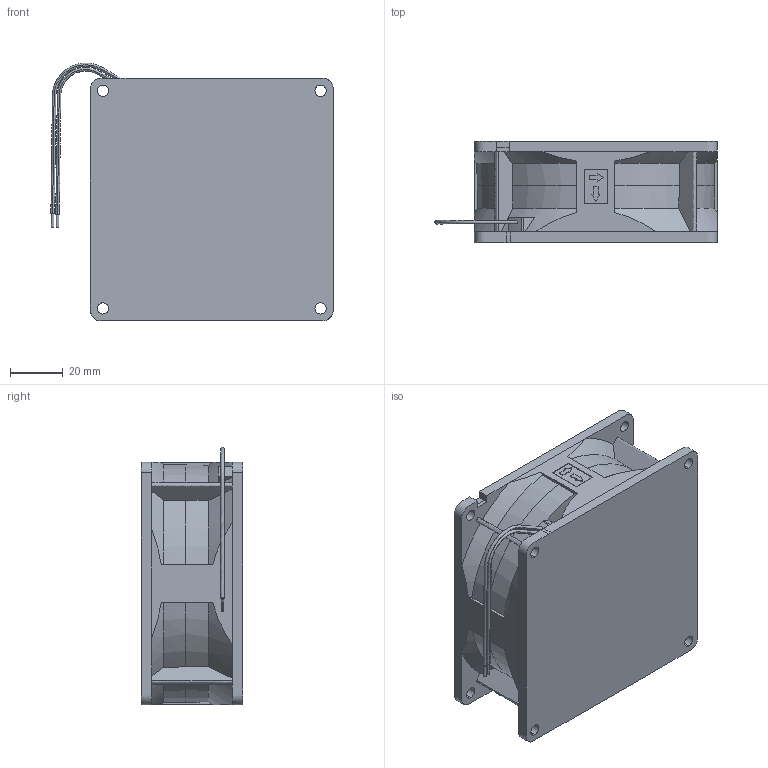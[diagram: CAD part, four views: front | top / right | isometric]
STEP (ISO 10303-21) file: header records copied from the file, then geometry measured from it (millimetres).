
FILE_DESCRIPTION (( 'STEP AP214' ), '1' );
FILE_NAME ('3615RL.STEP', '2023-10-02T12:34:41', ( '' ), ( '' ), 'SwSTEP 2.0', 'SolidWorks 2022', '' );
FILE_SCHEMA (( 'AUTOMOTIVE_DESIGN' ));
Length unit declared in the file: millimetre
Products named in the file (1): 3615RL
Bounding box: 107 x 38.4 x 97.75 mm (x, y, z)
Surface area: 33430.8 mm2 (no closed solid volume)
Topology: 0 solids, 1 shells, 123 faces, 331 edges, 217 vertices
Faces by surface type: plane 56, cone 32, cylinder 21, bspline 14
Entity records: 6409 total; most frequent: CARTESIAN_POINT 3531, ORIENTED_EDGE 662, DIRECTION 504, EDGE_CURVE 331, VERTEX_POINT 217, AXIS2_PLACEMENT_3D 186, EDGE_LOOP 146, VECTOR 132
